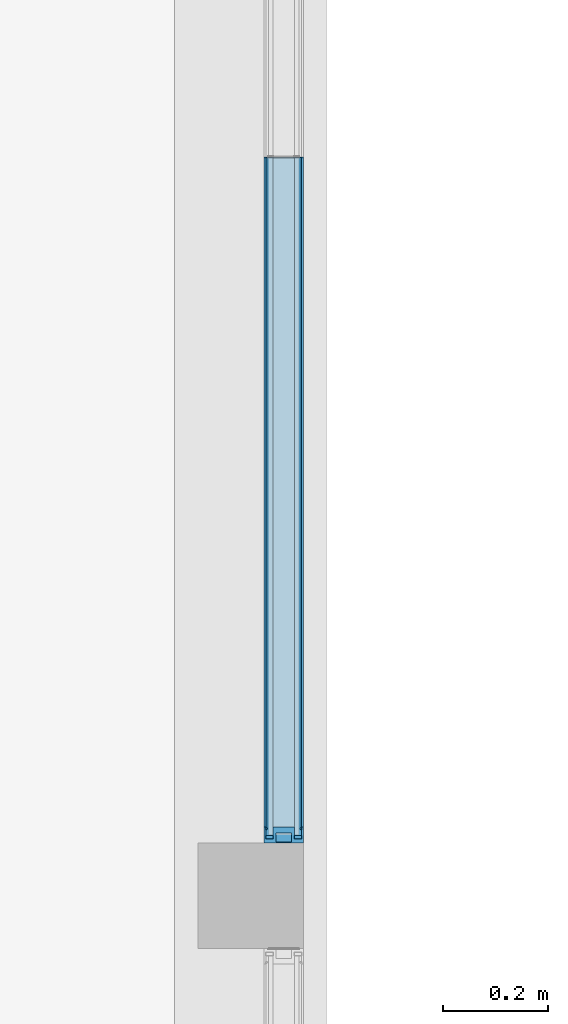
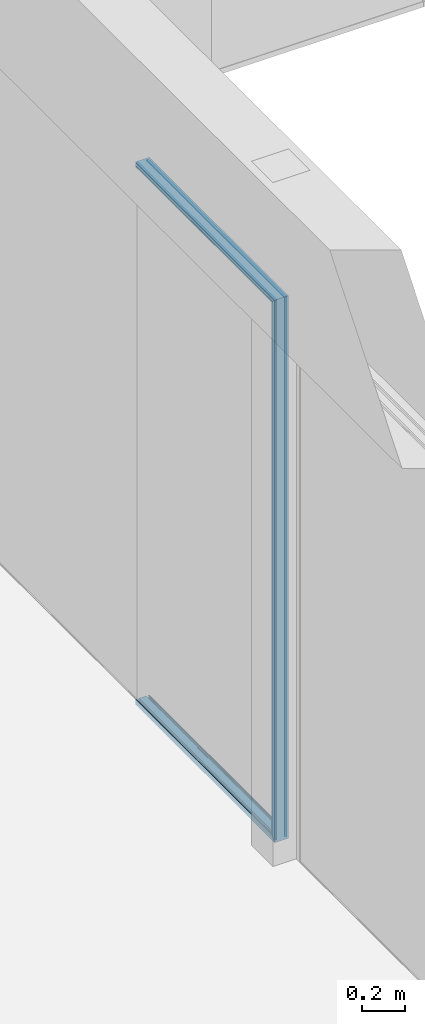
# One storey, part 78 of 387: 6 building element parts, 4 elements without a shape of their own.
"""IFC2X3 building model written with IfcOpenShell, lengths in millimetres."""

import ifcopenshell
import ifcopenshell.guid

model = None  # the IFC model being written
_history = None  # IfcOwnerHistory: only IFC2X3 demands one
_inside = {}  # id of a spatial element -> (the spatial element, [elements in it])
_under = {}  # id of a project, library or spatial element -> (it, [spatial elements below it])
_declared = {}  # id of a project -> (the project, [libraries it declares])
_typed = {}  # id of a type object -> (the type object, [elements of that type])
_made_of = {}  # id of a material, layer set ... -> (it, [elements and type objects made of it])


def new_model(schema):
    """Start an empty IFC model of exactly this schema.

    Asked for "IFC4X3", IfcOpenShell would pick the latest addendum, in which some entities
    have other attributes; the version numbers below select the first issue.
    IFC2X3 requires an IfcOwnerHistory on every rooted entity: one is made here for all.
    """
    global model, _history
    if schema == "IFC4X3":
        model = ifcopenshell.file(schema_version=(4, 3, 0, 0))
    else:
        model = ifcopenshell.file(schema=schema)
    _inside.clear()
    _under.clear()
    _declared.clear()
    _typed.clear()
    _made_of.clear()
    _history = None
    if model.schema == "IFC2X3":
        org = make("IfcOrganization", Name="unknown")
        user = make(
            "IfcPersonAndOrganization",
            ThePerson=make("IfcPerson", FamilyName="unknown"),
            TheOrganization=org,
        )
        app = make(
            "IfcApplication",
            ApplicationDeveloper=org,
            Version="unknown",
            ApplicationFullName="unknown",
            ApplicationIdentifier="unknown",
        )
        _history = make(
            "IfcOwnerHistory",
            OwningUser=user,
            OwningApplication=app,
            ChangeAction="ADDED",
            CreationDate=0,
        )
    return model


def make(cls, **values):
    """One entity of the class cls with the attributes given. An attribute that is None is left unset."""
    return model.create_entity(
        cls, **{name: value for name, value in values.items() if value is not None}
    )


def entity(cls, *values):
    """Any entity or typed value of the class cls, its attributes in the order of the schema. None: left unset."""
    e = model.create_entity(cls)
    for i, value in enumerate(values):
        if value is not None:
            e[i] = value
    return e


def rooted(cls, **values):
    """An entity with a GlobalId (a new one), such as an element, a storey or a relation."""
    return make(cls, GlobalId=ifcopenshell.guid.new(), OwnerHistory=_history, **values)


def si_unit(unit_type, name, prefix=None):
    """IfcSIUnit, for example si_unit("LENGTHUNIT", "METRE", prefix="MILLI")."""
    return make("IfcSIUnit", UnitType=unit_type, Prefix=prefix, Name=name)


def converted_unit(unit_type, name, factor, base, dimensions=None, offset=None):
    """IfcConversionBasedUnit, such as the inch: factor (a typed value) times the base unit."""
    return make(
        "IfcConversionBasedUnit"
        if offset is None
        else "IfcConversionBasedUnitWithOffset",
        ConversionOffset=offset,
        Dimensions=None
        if dimensions is None
        else entity("IfcDimensionalExponents", *dimensions),
        UnitType=unit_type,
        Name=name,
        ConversionFactor=make(
            "IfcMeasureWithUnit", ValueComponent=factor, UnitComponent=base
        ),
    )


def derived_unit(unit_type, elements):
    """IfcDerivedUnit: a product of units, each with its exponent."""
    return make(
        "IfcDerivedUnit",
        Elements=[
            make("IfcDerivedUnitElement", Unit=unit, Exponent=power)
            for unit, power in elements
        ],
        UnitType=unit_type,
    )


def money_unit(currency):
    """IfcMonetaryUnit."""
    return make("IfcMonetaryUnit", Currency=currency)


def assignment(units):
    """IfcUnitAssignment: the units of a project."""
    return None if units is None else make("IfcUnitAssignment", Units=units)


def point(xyz):
    """IfcCartesianPoint."""
    return None if xyz is None else make("IfcCartesianPoint", Coordinates=xyz)


def direction(xyz):
    """IfcDirection."""
    return None if xyz is None else make("IfcDirection", DirectionRatios=xyz)


def frame(location, z_axis=None, x_axis=None):
    """IfcAxis2Placement3D, a coordinate frame: its origin and axes. An axis left out is left unset."""
    return make(
        "IfcAxis2Placement3D",
        Location=point(location),
        Axis=direction(z_axis),
        RefDirection=direction(x_axis),
    )


def origin_with_axes():
    """The frame at (0, 0, 0) with the z axis (0, 0, 1) and the x axis (1, 0, 0) written out."""
    return frame((0.0, 0.0, 0.0), z_axis=(0.0, 0.0, 1.0), x_axis=(1.0, 0.0, 0.0))


def place(relative_to, where):
    """IfcLocalPlacement: puts the frame where relative to a parent placement (None: the world)."""
    return make(
        "IfcLocalPlacement", PlacementRelTo=relative_to, RelativePlacement=where
    )


def context(
    kind, dimensions, precision=None, world=None, true_north=None, identifier=None
):
    """IfcGeometricRepresentationContext, for example the 3D "Model" context."""
    return make(
        "IfcGeometricRepresentationContext",
        ContextIdentifier=identifier,
        ContextType=kind,
        CoordinateSpaceDimension=dimensions,
        Precision=precision,
        WorldCoordinateSystem=world,
        TrueNorth=true_north,
    )


def subcontext(parent, identifier, kind, view, scale=None):
    """IfcGeometricRepresentationSubContext, for example "Body" below "Model"."""
    return make(
        "IfcGeometricRepresentationSubContext",
        ContextIdentifier=identifier,
        ContextType=kind,
        ParentContext=parent,
        TargetScale=scale,
        TargetView=view,
    )


def project(units=None, contexts=None):
    """IfcProject with its units and contexts."""
    return rooted(
        "IfcProject",
        Name="project",
        RepresentationContexts=contexts,
        UnitsInContext=assignment(units),
    )


def spatial(cls, under=None, at=None, **own):
    """A site, building, storey or space (cls), placed at a placement, below another one or the project."""
    s = rooted(cls, ObjectPlacement=at, **own)
    if under is not None:
        _under.setdefault(under.id(), (under, []))[1].append(s)
    return s


def faces_of(points, faces, orient=None, outer=None):
    """IfcFace entities. A face is a list of loops; a loop is a list of indices into points, from 0.

    orient and outer hold one flag for each loop. By default every Orientation is true, the
    first loop of a face is its IfcFaceOuterBound and the others are IfcFaceBound.
    """
    made = []
    for i, loops in enumerate(faces):
        bounds = []
        for j, loop in enumerate(loops):
            is_outer = j == 0 if outer is None else outer[i][j]
            bounds.append(
                make(
                    "IfcFaceOuterBound" if is_outer else "IfcFaceBound",
                    Bound=make("IfcPolyLoop", Polygon=[points[k] for k in loop]),
                    Orientation=True if orient is None else orient[i][j],
                )
            )
        made.append(make("IfcFace", Bounds=bounds))
    return made


def faceted_brep(points, faces, orient=None, outer=None, voids=None):
    """IfcFacetedBrep: a solid bounded by flat faces; with voids (closed shells), ...WithVoids."""
    shared = [point(p) for p in points]
    hull = make("IfcClosedShell", CfsFaces=faces_of(shared, faces, orient, outer))
    if voids is None:
        return make("IfcFacetedBrep", Outer=hull)
    return make(
        "IfcFacetedBrepWithVoids",
        Outer=hull,
        Voids=[
            make(cls, CfsFaces=faces_of(shared, fs, o, b)) for cls, fs, o, b in voids
        ],
    )


def shape(context_of_items, identifier, shape_type, items):
    """IfcShapeRepresentation: the items that make up one representation, for example the "Body"."""
    return make(
        "IfcShapeRepresentation",
        ContextOfItems=context_of_items,
        RepresentationIdentifier=identifier,
        RepresentationType=shape_type,
        Items=items,
    )


def source(mapping_origin, context_of_items, identifier, shape_type, items):
    """IfcRepresentationMap: a shape defined once, which mapped items show again and again."""
    return make(
        "IfcRepresentationMap",
        MappingOrigin=mapping_origin,
        MappedRepresentation=shape(context_of_items, identifier, shape_type, items),
    )


def transform(
    local_origin,
    x_axis=None,
    y_axis=None,
    z_axis=None,
    scale=None,
    scale2=None,
    scale3=None,
    uniform=True,
):
    """IfcCartesianTransformationOperator3D, or its non-uniform kind. x_axis, y_axis, z_axis: its Axis1, 2, 3."""
    if uniform:
        return make(
            "IfcCartesianTransformationOperator3D",
            Axis1=direction(x_axis),
            Axis2=direction(y_axis),
            LocalOrigin=point(local_origin),
            Scale=scale,
            Axis3=direction(z_axis),
        )
    return make(
        "IfcCartesianTransformationOperator3DnonUniform",
        Axis1=direction(x_axis),
        Axis2=direction(y_axis),
        LocalOrigin=point(local_origin),
        Scale=scale,
        Axis3=direction(z_axis),
        Scale2=scale2,
        Scale3=scale3,
    )


def mapped(mapping_source, mapping_target):
    """IfcMappedItem: shows the shape of a source again, moved by a transform."""
    return make(
        "IfcMappedItem", MappingSource=mapping_source, MappingTarget=mapping_target
    )


def material(Name=None, Category=None):
    """IfcMaterial."""
    return make("IfcMaterial", Name=Name, Category=Category)


def made_of(thing, what):
    """Note that an element or type object is made of a material, layer set ...; save() writes the relation."""
    if what is not None:
        _made_of.setdefault(what.id(), (what, []))[1].append(thing)
    return thing


def type_object(cls, material=None, **own):
    """A type object (cls), such as IfcWallType, which elements share."""
    return made_of(rooted(cls, **own), material)


def element(
    cls,
    number,
    at=None,
    inside=None,
    cuts=None,
    type_object=None,
    material=None,
    context=None,
    identifier="Body",
    shape_type=None,
    held_by="IfcProductDefinitionShape",
    body=None,
    shapes=None,
    **own,
):
    """One element of the class cls, such as IfcWall. Its Tag is "e" and its number.

    at: its placement. inside: the storey or other place that contains it. cuts: it is an
    opening in that element (IfcRelVoidsElement). A single representation is given by context,
    identifier, shape_type and body (its items); several are given by shapes. held_by: the class
    of the entity that holds the representations. save() writes the other relations.
    """
    e = rooted(cls, Tag="e%d" % number, ObjectPlacement=at, **own)
    if body is not None:
        shapes = [shape(context, identifier, shape_type, body)]
    if shapes is not None:
        e.Representation = make(held_by, Representations=shapes)
    if inside is not None:
        _inside.setdefault(inside.id(), (inside, []))[1].append(e)
    if cuts is not None:
        rooted(
            "IfcRelVoidsElement", RelatingBuildingElement=cuts, RelatedOpeningElement=e
        )
    if type_object is not None:
        _typed.setdefault(type_object.id(), (type_object, []))[1].append(e)
    return made_of(e, material)


def aggregate(whole, parts):
    """IfcRelAggregates: a whole, such as a stair, and the parts it consists of."""
    return rooted("IfcRelAggregates", RelatingObject=whole, RelatedObjects=parts)


def save(model, path):
    """Write the relations noted so far, then the file.

    IfcRelAggregates (storeys below a building ...), IfcRelContainedInSpatialStructure (elements
    in a storey), IfcRelDefinesByType, IfcRelAssociatesMaterial and IfcRelDeclares: one each for
    every whole, place, type object, material and project.
    """
    for whole, parts in _under.values():
        aggregate(whole, parts)
    for where, things in _inside.values():
        rooted(
            "IfcRelContainedInSpatialStructure",
            RelatedElements=things,
            RelatingStructure=where,
        )
    for kind, things in _typed.values():
        rooted("IfcRelDefinesByType", RelatedObjects=things, RelatingType=kind)
    for what, things in _made_of.values():
        rooted("IfcRelAssociatesMaterial", RelatedObjects=things, RelatingMaterial=what)
    for by, libraries in _declared.values():
        rooted("IfcRelDeclares", RelatingContext=by, RelatedDefinitions=libraries)
    model.write(path)


model = new_model("IFC2X3")

# Units and contexts
model_context = context("Model", 3, precision=0.01, world=origin_with_axes(), true_north=direction((0.0, 1.0)))
body_context = subcontext(model_context, "Body", "Model", "MODEL_VIEW")
ifc_project = project(units=[si_unit("LENGTHUNIT", "METRE", prefix="MILLI"), si_unit("AREAUNIT", "SQUARE_METRE"), si_unit("VOLUMEUNIT", "CUBIC_METRE"), converted_unit("PLANEANGLEUNIT", "DEGREE", entity("IfcPlaneAngleMeasure", 0.0174532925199), si_unit("PLANEANGLEUNIT", "RADIAN"), dimensions=[0, 0, 0, 0, 0, 0, 0]), si_unit("SOLIDANGLEUNIT", "STERADIAN"), money_unit("EUR"), converted_unit("TIMEUNIT", "Year", entity("IfcTimeMeasure", 31556926.0), si_unit("TIMEUNIT", "SECOND"), dimensions=[0, 0, 1, 0, 0, 0, 0]), si_unit("MASSUNIT", "GRAM", prefix="KILO"), si_unit("THERMODYNAMICTEMPERATUREUNIT", "DEGREE_CELSIUS"), si_unit("LUMINOUSINTENSITYUNIT", "LUMEN"), si_unit("ENERGYUNIT", "JOULE", prefix="MEGA"), derived_unit("THERMALCONDUCTANCEUNIT", [(si_unit("POWERUNIT", "WATT"), 1), (si_unit("LENGTHUNIT", "METRE"), -1), (si_unit("THERMODYNAMICTEMPERATUREUNIT", "KELVIN"), -1)]), derived_unit("SPECIFICHEATCAPACITYUNIT", [(si_unit("ENERGYUNIT", "JOULE"), 1), (si_unit("MASSUNIT", "GRAM", prefix="KILO"), -1), (si_unit("THERMODYNAMICTEMPERATUREUNIT", "KELVIN"), -1)]), derived_unit("MASSDENSITYUNIT", [(si_unit("MASSUNIT", "GRAM", prefix="KILO"), 1), (si_unit("VOLUMEUNIT", "CUBIC_METRE"), -1)])], contexts=[model_context])

# Site, building, storey
site_placement = place(None, origin_with_axes())
site = spatial("IfcSite", under=ifc_project, at=site_placement, Name="Puškini 31, Narva", CompositionType="ELEMENT")
building_placement = place(site_placement, origin_with_axes())
building = spatial("IfcBuilding", under=site, at=building_placement, Name="Narva Riigigümnaasium", CompositionType="ELEMENT")
storey_placement = place(building_placement, frame((0.0, 0.0, 2640.0), z_axis=(0.0, 0.0, 1.0), x_axis=(1.0, 0.0, 0.0)))
storey = spatial("IfcBuildingStorey", under=building, at=storey_placement, Name="2.korrus +2.64", CompositionType="ELEMENT", Elevation=2640.0)

# Curtain wall, members, building element parts
curtain_wall_type = type_object("IfcCurtainWallType", Name="Curtain Wall Type", PredefinedType="NOTDEFINED")
curtain_wall_placement = place(storey_placement, frame((32762.9999991, 182950.00006, -30.0000128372), z_axis=(0.0, 0.0, 1.0), x_axis=(1.0, 0.0, 0.0)))
curtain_wall = element("IfcCurtainWall", 1, at=curtain_wall_placement, inside=storey, type_object=curtain_wall_type, Name="G-SKLF-43")
member_type = type_object("IfcMemberType", Name="Boundary Frame 30 x 37", PredefinedType="MULLION")
member_1_placement = place(curtain_wall_placement, frame((4.24478230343e-08, -3250.0, 0.0), z_axis=(0.0, 0.0, 1.0), x_axis=(0.0, -1.0, 0.0)))
member_1 = element("IfcMember", 2, at=member_1_placement, type_object=member_type, Name="G-SKLF-23-raam", ObjectType="MULLION")
ifc_material_1 = material(Name="Klaasvill")
shared_shape_1 = source(origin_with_axes(), body_context, "Body", "Brep", [
    faceted_brep([(13.8499999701, 20.000000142, 13.8499999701), (13.8499999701, 20.000000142, 3076.14998209), (7.49999990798, 20.000000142, 3082.4999821), (7.49999990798, 20.000000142, 7.49999990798), (13.8499999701, 34.0161444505, 13.8499999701), (13.8499999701, 34.0161444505, 3076.14998209), (7.49999990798, 34.0161444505, 3082.4999821), (7.49999990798, 34.0161444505, 7.49999990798)], [[[0, 1, 2, 3]], [[4, 5, 1, 0]], [[2, 1, 5, 6]], [[3, 2, 6, 7]], [[3, 7, 4, 0]], [[7, 6, 5, 4]]]),
    faceted_brep([(25.004489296, 32.0307503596, 25.004489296), (25.004489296, 32.0307503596, 3064.99549284), (24.987414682, 34.0161444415, 3065.01256745), (24.987414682, 34.0161444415, 24.987414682), (25.742237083, 31.2930025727, 25.742237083), (25.742237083, 31.2930025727, 3064.25774506), (26.7500193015, 31.0229681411, 3063.24996285), (27.75780152, 31.2930025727, 3062.24218064), (28.4955493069, 32.0307503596, 3061.50443285), (28.7655837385, 33.0385325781, 3061.23439842), (28.5126239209, 34.0161444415, 3061.48735824), (28.5126239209, 34.0161444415, 28.5126239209), (28.7655837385, 33.0385325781, 28.7655837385), (28.4955493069, 32.0307503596, 28.4955493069), (27.75780152, 31.2930025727, 27.75780152), (26.7500193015, 31.0229681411, 26.7500193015)], [[[0, 1, 2, 3]], [[4, 5, 1, 0]], [[2, 1, 5, 6, 7, 8, 9, 10]], [[3, 2, 10, 11]], [[3, 11, 12, 13, 14, 15, 4, 0]], [[15, 6, 5, 4]], [[14, 7, 6, 15]], [[13, 8, 7, 14]], [[12, 9, 8, 13]], [[11, 10, 9, 12]]]),
    faceted_brep([(7.49999990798, -34.0161445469, 7.49999990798), (7.49999990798, -34.0161445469, 3082.4999821), (7.49999990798, -19.9999997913, 3082.4999821), (7.49999990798, -19.9999997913, 7.49999990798), (13.8499999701, -34.0161445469, 13.8499999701), (13.8499999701, -34.0161445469, 3076.14998209), (13.8499999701, -19.9999997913, 3076.14998209), (13.8499999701, -19.9999997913, 13.8499999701)], [[[0, 1, 2, 3]], [[4, 5, 1, 0]], [[2, 1, 5, 6]], [[3, 2, 6, 7]], [[3, 7, 4, 0]], [[7, 6, 5, 4]]]),
    faceted_brep([(24.987414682, -34.0161444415, 24.987414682), (24.987414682, -34.0161444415, 3065.01256745), (25.004489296, -32.0307503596, 3064.99549284), (25.004489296, -32.0307503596, 25.004489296), (28.5126239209, -34.0161444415, 28.5126239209), (28.5126239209, -34.0161444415, 3061.48735824), (28.7655837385, -33.0385325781, 3061.23439842), (28.4955493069, -32.0307503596, 3061.50443285), (27.75780152, -31.2930025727, 3062.24218064), (26.7500193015, -31.0229681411, 3063.24996285), (25.742237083, -31.2930025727, 3064.25774506), (25.742237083, -31.2930025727, 25.742237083), (26.7500193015, -31.0229681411, 26.7500193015), (27.75780152, -31.2930025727, 27.75780152), (28.4955493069, -32.0307503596, 28.4955493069), (28.7655837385, -33.0385325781, 28.7655837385)], [[[0, 1, 2, 3]], [[4, 5, 1, 0]], [[2, 1, 5, 6, 7, 8, 9, 10]], [[3, 2, 10, 11]], [[3, 11, 12, 13, 14, 15, 4, 0]], [[15, 6, 5, 4]], [[14, 7, 6, 15]], [[13, 8, 7, 14]], [[12, 9, 8, 13]], [[11, 10, 9, 12]]]),
])
building_element_part_1_placement = place(member_1_placement, origin_with_axes())
building_element_part_1 = element("IfcBuildingElementPart", 3, at=building_element_part_1_placement, material=ifc_material_1, Name="Klaasvill", context=body_context, shape_type="MappedRepresentation", body=[
    mapped(shared_shape_1, transform((0.0, 0.0, 0.0), x_axis=(-1.0, 0.0, 0.0), y_axis=(0.0, -1.0, 0.0), z_axis=(0.0, 0.0, 1.0))),
])
ifc_material_2 = material(Name="Teras RAL7012")
shared_shape_2 = source(origin_with_axes(), body_context, "Body", "Brep", [
    faceted_brep([(29.5999996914, -17.0000000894, 29.5999996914), (29.5999996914, -17.0000000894, 3060.39998248), (0.0, -17.0000000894, 3089.99998196), (0.0, -17.0000000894, 0.0), (29.5999996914, 17.0000000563, 29.5999996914), (29.5999996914, 17.0000000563, 3060.39998248), (0.0, 17.0000000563, 3089.99998196), (1.9999999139, 15.0000001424, 3087.99998206), (18.7999996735, 15.0000001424, 3071.19998242), (18.7999996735, -15.0000001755, 3071.19998242), (1.9999999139, -15.0000001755, 3087.99998206), (0.0, 17.0000000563, 0.0), (1.9999999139, 15.0000001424, 1.9999999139), (1.9999999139, -15.0000001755, 1.9999999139), (18.7999996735, -15.0000001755, 18.7999996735), (18.7999996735, 15.0000001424, 18.7999996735)], [[[0, 1, 2, 3]], [[4, 5, 1, 0]], [[2, 1, 5, 6], [7, 8, 9, 10]], [[3, 2, 6, 11]], [[3, 11, 4, 0], [12, 13, 14, 15]], [[11, 6, 5, 4]], [[15, 8, 7, 12]], [[14, 9, 8, 15]], [[13, 10, 9, 14]], [[12, 7, 10, 13]]]),
    faceted_brep([(29.5999996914, 17.0000000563, 29.5999996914), (29.5999996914, 17.0000000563, 3060.39998248), (0.0, 17.0, 3089.99998196), (0.0, 17.0, 0.0), (30.0000193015, 17.0, 30.0000193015), (30.0000193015, 17.0, 3059.99996287), (30.0000193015, 20.0, 3059.99996287), (13.8499999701, 20.000000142, 3076.14998209), (7.49999999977, 20.0, 3082.49998201), (7.49999999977, 34.0161444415, 3082.49998201), (13.8499999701, 34.0161444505, 3076.14998209), (24.987414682, 34.0161444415, 3065.01256745), (28.5126239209, 34.0161444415, 3061.48735824), (30.0000193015, 34.0161444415, 3059.99996287), (30.0000193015, 37.0, 3059.99996287), (0.0, 37.0, 3089.99998196), (0.0, 37.0, 0.0), (30.0000193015, 37.0, 30.0000193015), (30.0000193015, 34.0161444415, 30.0000193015), (28.5126239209, 34.0161444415, 28.5126239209), (24.987414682, 34.0161444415, 24.987414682), (13.8499999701, 34.0161444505, 13.8499999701), (7.49999999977, 34.0161444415, 7.49999999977), (7.49999999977, 20.0, 7.49999999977), (13.8499999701, 20.000000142, 13.8499999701), (30.0000193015, 20.0, 30.0000193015)], [[[0, 1, 2, 3]], [[4, 5, 1, 0]], [[2, 1, 5, 6, 7, 8, 9, 10, 11, 12, 13, 14, 15]], [[3, 2, 15, 16]], [[3, 16, 17, 18, 19, 20, 21, 22, 23, 24, 25, 4, 0]], [[25, 6, 5, 4]], [[24, 7, 6, 25]], [[23, 8, 7, 24]], [[22, 9, 8, 23]], [[21, 10, 9, 22]], [[20, 11, 10, 21]], [[19, 12, 11, 20]], [[18, 13, 12, 19]], [[17, 14, 13, 18]], [[16, 15, 14, 17]]]),
    faceted_brep([(0.0, -37.0, 0.0), (0.0, -37.0, 3089.99998196), (0.0, -17.0, 3089.99998196), (0.0, -17.0, 0.0), (30.0000193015, -37.0, 30.0000193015), (30.0000193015, -37.0, 3059.99996287), (30.0000193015, -34.0161444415, 3059.99996287), (28.5126239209, -34.0161444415, 3061.48735824), (24.987414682, -34.0161444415, 3065.01256745), (13.8499999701, -34.0161445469, 3076.14998209), (7.49999999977, -34.0161444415, 3082.49998201), (7.49999999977, -20.0, 3082.49998201), (13.8499999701, -19.9999997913, 3076.14998209), (30.0000193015, -20.0, 3059.99996287), (30.0000193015, -17.0, 3059.99996287), (29.5999996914, -17.0000000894, 3060.39998248), (29.5999996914, -17.0000000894, 29.5999996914), (30.0000193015, -17.0, 30.0000193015), (30.0000193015, -20.0, 30.0000193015), (13.8499999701, -19.9999997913, 13.8499999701), (7.49999999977, -20.0, 7.49999999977), (7.49999999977, -34.0161444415, 7.49999999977), (13.8499999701, -34.0161445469, 13.8499999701), (24.987414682, -34.0161444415, 24.987414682), (28.5126239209, -34.0161444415, 28.5126239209), (30.0000193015, -34.0161444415, 30.0000193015)], [[[0, 1, 2, 3]], [[4, 5, 1, 0]], [[2, 1, 5, 6, 7, 8, 9, 10, 11, 12, 13, 14, 15]], [[3, 2, 15, 16]], [[3, 16, 17, 18, 19, 20, 21, 22, 23, 24, 25, 4, 0]], [[25, 6, 5, 4]], [[24, 7, 6, 25]], [[23, 8, 7, 24]], [[22, 9, 8, 23]], [[21, 10, 9, 22]], [[20, 11, 10, 21]], [[19, 12, 11, 20]], [[18, 13, 12, 19]], [[17, 14, 13, 18]], [[16, 15, 14, 17]]]),
])
building_element_part_2_placement = place(member_1_placement, origin_with_axes())
building_element_part_2 = element("IfcBuildingElementPart", 4, at=building_element_part_2_placement, material=ifc_material_2, Name="Teras RAL7012", context=body_context, shape_type="MappedRepresentation", body=[
    mapped(shared_shape_2, transform((0.0, 0.0, 0.0), x_axis=(-1.0, 0.0, 0.0), y_axis=(0.0, -1.0, 0.0), z_axis=(0.0, 0.0, 1.0))),
])
aggregate(member_1, [building_element_part_1, building_element_part_2])
member_2_placement = place(curtain_wall_placement, frame((4.24478230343e-08, -3250.0, 0.0), z_axis=(0.0, 1.0, 0.0), x_axis=(0.0, 0.0, 1.0)))
member_2 = element("IfcMember", 5, at=member_2_placement, type_object=member_type, Name="G-SKLF-24-raam", ObjectType="MULLION")
shared_shape_3 = source(origin_with_axes(), body_context, "Body", "Brep", [
    faceted_brep([(-13.8499999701, 20.000000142, 13.8499999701), (-7.49999990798, 20.000000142, 7.49999990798), (-7.49999990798, 20.000000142, 1299.62499678), (-13.8499999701, 20.000000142, 1299.30749405), (-13.8499999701, 34.0161444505, 13.8499999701), (-7.49999990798, 34.0161444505, 7.49999990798), (-7.49999990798, 34.0161444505, 1299.62499678), (-13.8499999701, 34.0161444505, 1299.30749405)], [[[0, 1, 2, 3]], [[1, 0, 4, 5]], [[1, 5, 6, 2]], [[2, 6, 7, 3]], [[4, 0, 3, 7]], [[5, 4, 7, 6]]]),
    faceted_brep([(-25.004489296, 32.0307503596, 25.004489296), (-24.987414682, 34.0161444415, 24.987414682), (-24.987414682, 34.0161444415, 1298.75061852), (-25.004489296, 32.0307503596, 1298.74976478), (-25.742237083, 31.2930025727, 25.742237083), (-26.7500193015, 31.0229681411, 26.7500193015), (-27.75780152, 31.2930025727, 27.75780152), (-28.4955493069, 32.0307503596, 28.4955493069), (-28.7655837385, 33.0385325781, 28.7655837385), (-28.5126239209, 34.0161444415, 28.5126239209), (-28.5126239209, 34.0161444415, 1298.57435654), (-28.7655837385, 33.0385325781, 1298.56170844), (-28.4955493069, 32.0307503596, 1298.57521028), (-27.75780152, 31.2930025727, 1298.61209799), (-26.7500193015, 31.0229681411, 1298.66248753), (-25.742237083, 31.2930025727, 1298.71287708)], [[[0, 1, 2, 3]], [[1, 0, 4, 5, 6, 7, 8, 9]], [[1, 9, 10, 2]], [[2, 10, 11, 12, 13, 14, 15, 3]], [[4, 0, 3, 15]], [[5, 4, 15, 14]], [[6, 5, 14, 13]], [[7, 6, 13, 12]], [[8, 7, 12, 11]], [[9, 8, 11, 10]]]),
    faceted_brep([(-7.49999990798, -34.0161445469, 7.49999990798), (-7.49999990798, -19.9999997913, 7.49999990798), (-7.49999990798, -19.9999997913, 1299.62499678), (-7.49999990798, -34.0161445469, 1299.62499678), (-13.8499999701, -34.0161445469, 13.8499999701), (-13.8499999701, -19.9999997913, 13.8499999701), (-13.8499999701, -19.9999997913, 1299.30749405), (-13.8499999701, -34.0161445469, 1299.30749405)], [[[0, 1, 2, 3]], [[1, 0, 4, 5]], [[1, 5, 6, 2]], [[2, 6, 7, 3]], [[4, 0, 3, 7]], [[5, 4, 7, 6]]]),
    faceted_brep([(-24.987414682, -34.0161444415, 24.987414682), (-25.004489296, -32.0307503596, 25.004489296), (-25.004489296, -32.0307503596, 1298.74976478), (-24.987414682, -34.0161444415, 1298.75061852), (-28.5126239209, -34.0161444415, 28.5126239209), (-28.7655837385, -33.0385325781, 28.7655837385), (-28.4955493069, -32.0307503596, 28.4955493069), (-27.75780152, -31.2930025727, 27.75780152), (-26.7500193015, -31.0229681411, 26.7500193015), (-25.742237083, -31.2930025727, 25.742237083), (-25.742237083, -31.2930025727, 1298.71287708), (-26.7500193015, -31.0229681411, 1298.66248753), (-27.75780152, -31.2930025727, 1298.61209799), (-28.4955493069, -32.0307503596, 1298.57521028), (-28.7655837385, -33.0385325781, 1298.56170844), (-28.5126239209, -34.0161444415, 1298.57435654)], [[[0, 1, 2, 3]], [[1, 0, 4, 5, 6, 7, 8, 9]], [[1, 9, 10, 2]], [[2, 10, 11, 12, 13, 14, 15, 3]], [[4, 0, 3, 15]], [[5, 4, 15, 14]], [[6, 5, 14, 13]], [[7, 6, 13, 12]], [[8, 7, 12, 11]], [[9, 8, 11, 10]]]),
])
building_element_part_3_placement = place(member_2_placement, origin_with_axes())
building_element_part_3 = element("IfcBuildingElementPart", 6, at=building_element_part_3_placement, material=ifc_material_1, Name="Klaasvill", context=body_context, shape_type="MappedRepresentation", body=[
    mapped(shared_shape_3, transform((0.0, 0.0, 0.0), x_axis=(-1.0, 0.0, 0.0), y_axis=(0.0, -1.0, 0.0), z_axis=(0.0, 0.0, 1.0))),
])
shared_shape_4 = source(origin_with_axes(), body_context, "Body", "Brep", [
    faceted_brep([(-29.5999996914, -17.0000000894, 29.5999996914), (0.0, -17.0000000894, 0.0), (0.0, -17.0000000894, 1300.0), (-29.5999996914, -17.0000000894, 1298.51998729), (-29.5999996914, 17.0000000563, 29.5999996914), (0.0, 17.0000000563, 0.0), (-1.9999999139, 15.0000001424, 1.9999999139), (-18.7999996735, 15.0000001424, 18.7999996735), (-18.7999996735, -15.0000001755, 18.7999996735), (-1.9999999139, -15.0000001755, 1.9999999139), (0.0, 17.0000000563, 1300.0), (-29.5999996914, 17.0000000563, 1298.51998729), (-1.9999999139, 15.0000001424, 1299.89999914), (-1.9999999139, -15.0000001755, 1299.89999914), (-18.7999996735, -15.0000001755, 1299.05999193), (-18.7999996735, 15.0000001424, 1299.05999193)], [[[0, 1, 2, 3]], [[1, 0, 4, 5], [6, 7, 8, 9]], [[1, 5, 10, 2]], [[2, 10, 11, 3], [12, 13, 14, 15]], [[4, 0, 3, 11]], [[5, 4, 11, 10]], [[7, 6, 12, 15]], [[8, 7, 15, 14]], [[9, 8, 14, 13]], [[6, 9, 13, 12]]]),
    faceted_brep([(-29.5999996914, 17.0000000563, 29.5999996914), (0.0, 17.0, 0.0), (0.0, 17.0, 1300.0), (-29.5999996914, 17.0000000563, 1298.51998729), (-30.0000193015, 17.0, 30.0000193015), (-30.0000193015, 20.0, 30.0000193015), (-13.8499999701, 20.000000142, 13.8499999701), (-7.49999999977, 20.0, 7.49999999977), (-7.49999999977, 34.0161444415, 7.49999999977), (-13.8499999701, 34.0161444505, 13.8499999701), (-24.987414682, 34.0161444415, 24.987414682), (-28.5126239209, 34.0161444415, 28.5126239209), (-30.0000193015, 34.0161444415, 30.0000193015), (-30.0000193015, 37.0, 30.0000193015), (0.0, 37.0, 0.0), (0.0, 37.0, 1300.0), (-30.0000193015, 37.0, 1298.49998613), (-30.0000193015, 34.0161444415, 1298.49998613), (-28.5126239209, 34.0161444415, 1298.57435654), (-24.987414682, 34.0161444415, 1298.75061852), (-13.8499999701, 34.0161444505, 1299.30749405), (-7.49999999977, 34.0161444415, 1299.62499677), (-7.49999999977, 20.0, 1299.62499677), (-13.8499999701, 20.000000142, 1299.30749405), (-30.0000193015, 20.0, 1298.49998613), (-30.0000193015, 17.0, 1298.49998613)], [[[0, 1, 2, 3]], [[1, 0, 4, 5, 6, 7, 8, 9, 10, 11, 12, 13, 14]], [[1, 14, 15, 2]], [[2, 15, 16, 17, 18, 19, 20, 21, 22, 23, 24, 25, 3]], [[4, 0, 3, 25]], [[5, 4, 25, 24]], [[6, 5, 24, 23]], [[7, 6, 23, 22]], [[8, 7, 22, 21]], [[9, 8, 21, 20]], [[10, 9, 20, 19]], [[11, 10, 19, 18]], [[12, 11, 18, 17]], [[13, 12, 17, 16]], [[14, 13, 16, 15]]]),
    faceted_brep([(0.0, -37.0, 0.0), (0.0, -17.0, 0.0), (0.0, -17.0, 1300.0), (0.0, -37.0, 1300.0), (-30.0000193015, -37.0, 30.0000193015), (-30.0000193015, -34.0161444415, 30.0000193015), (-28.5126239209, -34.0161444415, 28.5126239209), (-24.987414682, -34.0161444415, 24.987414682), (-13.8499999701, -34.0161445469, 13.8499999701), (-7.49999999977, -34.0161444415, 7.49999999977), (-7.49999999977, -20.0, 7.49999999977), (-13.8499999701, -19.9999997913, 13.8499999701), (-30.0000193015, -20.0, 30.0000193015), (-30.0000193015, -17.0, 30.0000193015), (-29.5999996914, -17.0000000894, 29.5999996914), (-29.5999996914, -17.0000000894, 1298.51998729), (-30.0000193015, -17.0, 1298.49998613), (-30.0000193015, -20.0, 1298.49998613), (-13.8499999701, -19.9999997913, 1299.30749405), (-7.49999999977, -20.0, 1299.62499677), (-7.49999999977, -34.0161444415, 1299.62499677), (-13.8499999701, -34.0161445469, 1299.30749405), (-24.987414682, -34.0161444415, 1298.75061852), (-28.5126239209, -34.0161444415, 1298.57435654), (-30.0000193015, -34.0161444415, 1298.49998613), (-30.0000193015, -37.0, 1298.49998613)], [[[0, 1, 2, 3]], [[1, 0, 4, 5, 6, 7, 8, 9, 10, 11, 12, 13, 14]], [[1, 14, 15, 2]], [[2, 15, 16, 17, 18, 19, 20, 21, 22, 23, 24, 25, 3]], [[4, 0, 3, 25]], [[5, 4, 25, 24]], [[6, 5, 24, 23]], [[7, 6, 23, 22]], [[8, 7, 22, 21]], [[9, 8, 21, 20]], [[10, 9, 20, 19]], [[11, 10, 19, 18]], [[12, 11, 18, 17]], [[13, 12, 17, 16]], [[14, 13, 16, 15]]]),
])
building_element_part_4_placement = place(member_2_placement, origin_with_axes())
building_element_part_4 = element("IfcBuildingElementPart", 7, at=building_element_part_4_placement, material=ifc_material_2, Name="Teras RAL7012", context=body_context, shape_type="MappedRepresentation", body=[
    mapped(shared_shape_4, transform((0.0, 0.0, 0.0), x_axis=(-1.0, 0.0, 0.0), y_axis=(0.0, -1.0, 0.0), z_axis=(0.0, 0.0, 1.0))),
])
aggregate(member_2, [building_element_part_3, building_element_part_4])
member_3_placement = place(curtain_wall_placement, frame((2.5472957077e-08, -1950.0, 3090.0000349), z_axis=(0.0, -1.0, -7.71617504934e-09), x_axis=(0.0, 7.71617504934e-09, -1.0)))
member_3 = element("IfcMember", 8, at=member_3_placement, type_object=member_type, Name="G-SKLF-30-raam", ObjectType="MULLION")
aggregate(curtain_wall, [member_2, member_1, member_3])
shared_shape_5 = source(origin_with_axes(), body_context, "Body", "Brep", [
    faceted_brep([(-13.8499999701, 20.000000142, 0.692506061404), (-7.49999990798, 20.000000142, 0.375003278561), (-7.49999990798, 20.000000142, 1292.50000015), (-13.8499999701, 20.000000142, 1286.15000014), (-13.8499999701, 34.0161444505, 0.692506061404), (-7.49999990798, 34.0161444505, 0.375003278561), (-7.49999990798, 34.0161444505, 1292.50000015), (-13.8499999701, 34.0161444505, 1286.15000014)], [[[0, 1, 2, 3]], [[1, 0, 4, 5]], [[1, 5, 6, 2]], [[2, 6, 7, 3]], [[4, 0, 3, 7]], [[5, 4, 7, 6]]]),
    faceted_brep([(-25.004489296, 32.0307503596, 1.25023541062), (-24.987414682, 34.0161444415, 1.24938167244), (-24.987414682, 34.0161444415, 1275.01258551), (-25.004489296, 32.0307503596, 1274.9955109), (-25.742237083, 31.2930025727, 1.28712312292), (-26.7500193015, 31.0229681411, 1.337512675), (-27.75780152, 31.2930025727, 1.38790222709), (-28.4955493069, 32.0307503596, 1.42478993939), (-28.7655837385, 33.0385325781, 1.43829177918), (-28.5126239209, 34.0161444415, 1.42564367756), (-28.5126239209, 34.0161444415, 1271.4873763), (-28.7655837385, 33.0385325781, 1271.23441648), (-28.4955493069, 32.0307503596, 1271.50445091), (-27.75780152, 31.2930025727, 1272.24219869), (-26.7500193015, 31.0229681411, 1273.2499809), (-25.742237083, 31.2930025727, 1274.25776312)], [[[0, 1, 2, 3]], [[1, 0, 4, 5, 6, 7, 8, 9]], [[1, 9, 10, 2]], [[2, 10, 11, 12, 13, 14, 15, 3]], [[4, 0, 3, 15]], [[5, 4, 15, 14]], [[6, 5, 14, 13]], [[7, 6, 13, 12]], [[8, 7, 12, 11]], [[9, 8, 11, 10]]]),
    faceted_brep([(-7.49999990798, -34.0161445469, 0.375003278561), (-7.49999990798, -19.9999997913, 0.375003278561), (-7.49999990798, -19.9999997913, 1292.50000015), (-7.49999990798, -34.0161445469, 1292.50000015), (-13.8499999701, -34.0161445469, 0.692506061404), (-13.8499999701, -19.9999997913, 0.692506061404), (-13.8499999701, -19.9999997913, 1286.15000014), (-13.8499999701, -34.0161445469, 1286.15000014)], [[[0, 1, 2, 3]], [[1, 0, 4, 5]], [[1, 5, 6, 2]], [[2, 6, 7, 3]], [[4, 0, 3, 7]], [[5, 4, 7, 6]]]),
    faceted_brep([(-24.987414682, -34.0161444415, 1.24938167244), (-25.004489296, -32.0307503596, 1.25023541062), (-25.004489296, -32.0307503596, 1274.9955109), (-24.987414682, -34.0161444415, 1275.01258551), (-28.5126239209, -34.0161444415, 1.42564367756), (-28.7655837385, -33.0385325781, 1.43829177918), (-28.4955493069, -32.0307503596, 1.42478993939), (-27.75780152, -31.2930025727, 1.38790222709), (-26.7500193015, -31.0229681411, 1.337512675), (-25.742237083, -31.2930025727, 1.28712312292), (-25.742237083, -31.2930025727, 1274.25776312), (-26.7500193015, -31.0229681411, 1273.2499809), (-27.75780152, -31.2930025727, 1272.24219869), (-28.4955493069, -32.0307503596, 1271.50445091), (-28.7655837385, -33.0385325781, 1271.23441648), (-28.5126239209, -34.0161444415, 1271.4873763)], [[[0, 1, 2, 3]], [[1, 0, 4, 5, 6, 7, 8, 9]], [[1, 9, 10, 2]], [[2, 10, 11, 12, 13, 14, 15, 3]], [[4, 0, 3, 15]], [[5, 4, 15, 14]], [[6, 5, 14, 13]], [[7, 6, 13, 12]], [[8, 7, 12, 11]], [[9, 8, 11, 10]]]),
])
building_element_part_5_placement = place(member_3_placement, origin_with_axes())
building_element_part_5 = element("IfcBuildingElementPart", 9, at=building_element_part_5_placement, material=ifc_material_1, Name="Klaasvill", context=body_context, shape_type="MappedRepresentation", body=[
    mapped(shared_shape_5, transform((0.0, 0.0, 0.0), x_axis=(-1.0, 0.0, -7.71617511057e-09), y_axis=(0.0, -1.0, 0.0), z_axis=(-7.71617511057e-09, 0.0, 1.0))),
])
shared_shape_6 = source(origin_with_axes(), body_context, "Body", "Brep", [
    faceted_brep([(-29.5999996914, -17.0000000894, 1.48001294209), (0.0, -17.0000000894, 0.0), (0.0, -17.0000000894, 1300.0), (-29.5999996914, -17.0000000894, 1270.40000054), (-29.5999996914, 17.0000000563, 1.48001294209), (0.0, 17.0000000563, 0.0), (-1.9999999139, 15.0000001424, 0.100000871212), (-18.7999996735, 15.0000001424, 0.940008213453), (-18.7999996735, -15.0000001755, 0.940008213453), (-1.9999999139, -15.0000001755, 0.100000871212), (0.0, 17.0000000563, 1300.0), (-29.5999996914, 17.0000000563, 1270.40000054), (-1.9999999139, 15.0000001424, 1298.0000001), (-1.9999999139, -15.0000001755, 1298.0000001), (-18.7999996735, -15.0000001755, 1281.20000047), (-18.7999996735, 15.0000001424, 1281.20000047)], [[[0, 1, 2, 3]], [[1, 0, 4, 5], [6, 7, 8, 9]], [[1, 5, 10, 2]], [[2, 10, 11, 3], [12, 13, 14, 15]], [[4, 0, 3, 11]], [[5, 4, 11, 10]], [[7, 6, 12, 15]], [[8, 7, 15, 14]], [[9, 8, 14, 13]], [[6, 9, 13, 12]]]),
    faceted_brep([(-29.5999996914, 17.0000000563, 1.48001294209), (0.0, 17.0, 0.0), (0.0, 17.0, 1300.0), (-29.5999996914, 17.0000000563, 1270.40000054), (-30.0000193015, 17.0, 1.5000140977), (-30.0000193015, 20.0, 1.5000140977), (-13.8499999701, 20.000000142, 0.692506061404), (-7.49999999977, 20.0, 0.37500328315), (-7.49999999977, 34.0161444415, 0.37500328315), (-13.8499999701, 34.0161444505, 0.692506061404), (-24.987414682, 34.0161444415, 1.24938167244), (-28.5126239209, 34.0161444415, 1.42564367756), (-30.0000193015, 34.0161444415, 1.5000140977), (-30.0000193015, 37.0, 1.5000140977), (0.0, 37.0, 0.0), (0.0, 37.0, 1300.0), (-30.0000193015, 37.0, 1269.99998093), (-30.0000193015, 34.0161444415, 1269.99998093), (-28.5126239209, 34.0161444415, 1271.4873763), (-24.987414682, 34.0161444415, 1275.01258551), (-13.8499999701, 34.0161444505, 1286.15000014), (-7.49999999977, 34.0161444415, 1292.50000006), (-7.49999999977, 20.0, 1292.50000006), (-13.8499999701, 20.000000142, 1286.15000014), (-30.0000193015, 20.0, 1269.99998093), (-30.0000193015, 17.0, 1269.99998093)], [[[0, 1, 2, 3]], [[1, 0, 4, 5, 6, 7, 8, 9, 10, 11, 12, 13, 14]], [[1, 14, 15, 2]], [[2, 15, 16, 17, 18, 19, 20, 21, 22, 23, 24, 25, 3]], [[4, 0, 3, 25]], [[5, 4, 25, 24]], [[6, 5, 24, 23]], [[7, 6, 23, 22]], [[8, 7, 22, 21]], [[9, 8, 21, 20]], [[10, 9, 20, 19]], [[11, 10, 19, 18]], [[12, 11, 18, 17]], [[13, 12, 17, 16]], [[14, 13, 16, 15]]]),
    faceted_brep([(0.0, -37.0, 0.0), (0.0, -17.0, 0.0), (0.0, -17.0, 1300.0), (0.0, -37.0, 1300.0), (-30.0000193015, -37.0, 1.5000140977), (-30.0000193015, -34.0161444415, 1.5000140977), (-28.5126239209, -34.0161444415, 1.42564367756), (-24.987414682, -34.0161444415, 1.24938167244), (-13.8499999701, -34.0161445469, 0.692506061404), (-7.49999999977, -34.0161444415, 0.37500328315), (-7.49999999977, -20.0, 0.37500328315), (-13.8499999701, -19.9999997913, 0.692506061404), (-30.0000193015, -20.0, 1.5000140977), (-30.0000193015, -17.0, 1.5000140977), (-29.5999996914, -17.0000000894, 1.48001294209), (-29.5999996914, -17.0000000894, 1270.40000054), (-30.0000193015, -17.0, 1269.99998093), (-30.0000193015, -20.0, 1269.99998093), (-13.8499999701, -19.9999997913, 1286.15000014), (-7.49999999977, -20.0, 1292.50000006), (-7.49999999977, -34.0161444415, 1292.50000006), (-13.8499999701, -34.0161445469, 1286.15000014), (-24.987414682, -34.0161444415, 1275.01258551), (-28.5126239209, -34.0161444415, 1271.4873763), (-30.0000193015, -34.0161444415, 1269.99998093), (-30.0000193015, -37.0, 1269.99998093)], [[[0, 1, 2, 3]], [[1, 0, 4, 5, 6, 7, 8, 9, 10, 11, 12, 13, 14]], [[1, 14, 15, 2]], [[2, 15, 16, 17, 18, 19, 20, 21, 22, 23, 24, 25, 3]], [[4, 0, 3, 25]], [[5, 4, 25, 24]], [[6, 5, 24, 23]], [[7, 6, 23, 22]], [[8, 7, 22, 21]], [[9, 8, 21, 20]], [[10, 9, 20, 19]], [[11, 10, 19, 18]], [[12, 11, 18, 17]], [[13, 12, 17, 16]], [[14, 13, 16, 15]]]),
])
building_element_part_6_placement = place(member_3_placement, origin_with_axes())
building_element_part_6 = element("IfcBuildingElementPart", 10, at=building_element_part_6_placement, material=ifc_material_2, Name="Teras RAL7012", context=body_context, shape_type="MappedRepresentation", body=[
    mapped(shared_shape_6, transform((0.0, 0.0, 0.0), x_axis=(-1.0, 0.0, -7.71617511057e-09), y_axis=(0.0, -1.0, 0.0), z_axis=(-7.71617511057e-09, 0.0, 1.0))),
])
aggregate(member_3, [building_element_part_5, building_element_part_6])

save(model, "model.ifc")
